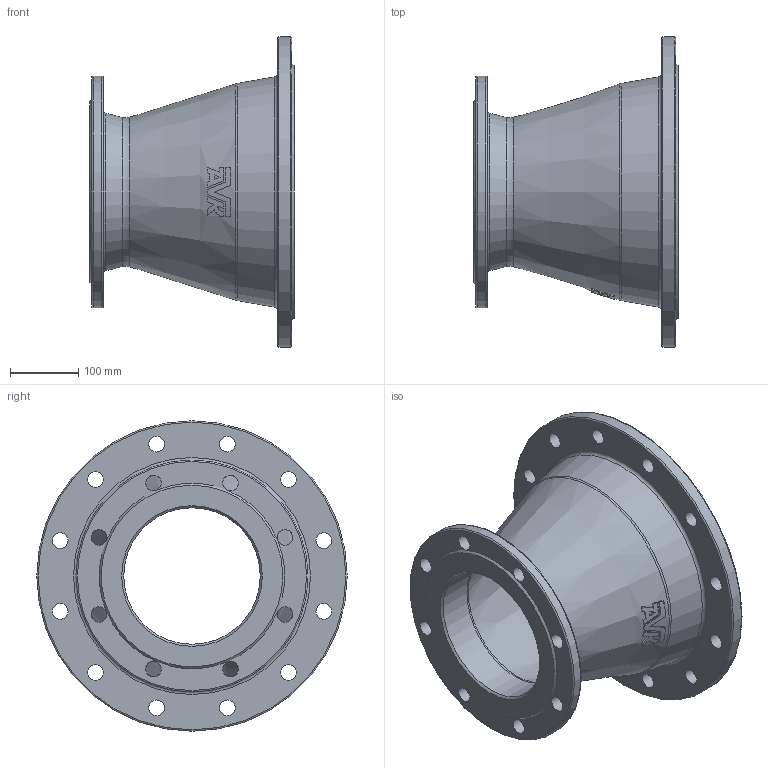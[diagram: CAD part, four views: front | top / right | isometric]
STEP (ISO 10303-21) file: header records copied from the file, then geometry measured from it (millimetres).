
FILE_DESCRIPTION (( 'STEP AP203' ), '1' );
FILE_NAME ('O_712_2210_DN300_DN200_0X_REV01.step', '2024-08-08T05:56:39', ( '' ), ( '' ), 'SwSTEP 2.0', 'SolidWorks 2022', '' );
FILE_SCHEMA (( 'CONFIG_CONTROL_DESIGN' ));
Length unit declared in the file: millimetre
Products named in the file (1): O_712_2210_DN300_DN200_0X_REV01
Bounding box: 300 x 455 x 455 mm (x, y, z)
Volume: 5186436.2 mm3; surface area: 800802.1 mm2
Topology: 1 solids, 1 shells, 89 faces, 276 edges, 177 vertices
Faces by surface type: plane 41, cylinder 26, cone 12, torus 10
Full cylindrical faces by diameter (mm): 23 x20, 200 x1, 300 x1, 340 x1, 455 x1
Entity records: 3036 total; most frequent: CARTESIAN_POINT 799, DIRECTION 453, ORIENTED_EDGE 418, EDGE_CURVE 209, AXIS2_PLACEMENT_3D 208, EDGE_LOOP 161, VERTEX_POINT 152, FACE_OUTER_BOUND 123
